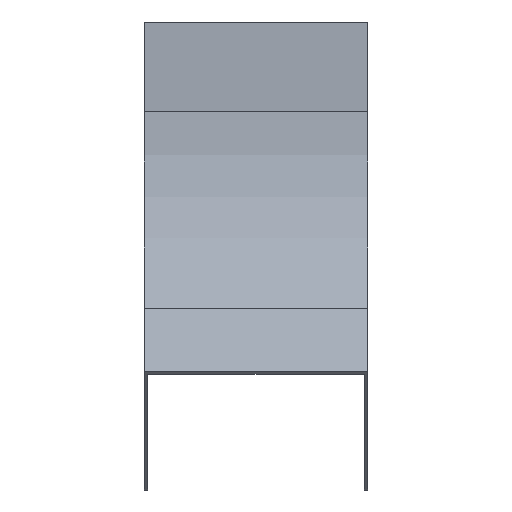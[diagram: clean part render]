
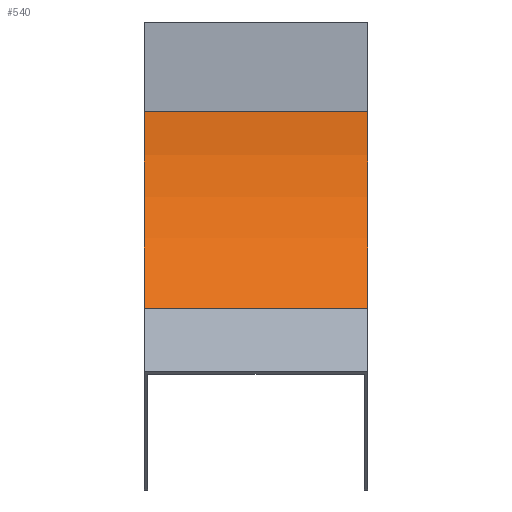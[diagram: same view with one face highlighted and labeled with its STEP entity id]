
A CAD part, front view. The second image highlights one B-rep face of the part: STEP entity #540.
In plain terms, the highlighted cylindrical face has radius 125 mm (diameter 250 mm), a partial arc.
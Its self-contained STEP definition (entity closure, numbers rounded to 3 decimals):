
#5 = CARTESIAN_POINT ( 'NONE',  ( 50., -36.612, -128.388 ) ) ;
#10 = ORIENTED_EDGE ( 'NONE', *, *, #181, .T. ) ;
#22 = DIRECTION ( 'NONE',  ( 0., 0., 1. ) ) ;
#76 = LINE ( 'NONE', #829, #459 ) ;
#125 = LINE ( 'NONE', #5, #891 ) ;
#154 = FACE_OUTER_BOUND ( 'NONE', #1281, .T. ) ;
#157 = AXIS2_PLACEMENT_3D ( 'NONE', #1033, #637, #1537 ) ;
#181 = EDGE_CURVE ( 'NONE', #249, #460, #267, .T. ) ;
#249 = VERTEX_POINT ( 'NONE', #1606 ) ;
#267 = CIRCLE ( 'NONE', #831, 125. ) ;
#346 = AXIS2_PLACEMENT_3D ( 'NONE', #1203, #819, #1194 ) ;
#459 = VECTOR ( 'NONE', #1483, 1000. ) ;
#460 = VERTEX_POINT ( 'NONE', #889 ) ;
#483 = EDGE_CURVE ( 'NONE', #1647, #460, #125, .T. ) ;
#517 = CARTESIAN_POINT ( 'NONE',  ( -50., -125., -40. ) ) ;
#540 = ADVANCED_FACE ( 'NONE', ( #154 ), #671, .F. ) ;
#637 = DIRECTION ( 'NONE',  ( -1., 0., 0. ) ) ;
#641 = DIRECTION ( 'NONE',  ( -1., 0., 0. ) ) ;
#671 = CYLINDRICAL_SURFACE ( 'NONE', #346, 125. ) ;
#741 = EDGE_CURVE ( 'NONE', #1577, #1647, #1328, .T. ) ;
#819 = DIRECTION ( 'NONE',  ( -1., 0., 0. ) ) ;
#829 = CARTESIAN_POINT ( 'NONE',  ( 50., 0., -40. ) ) ;
#831 = AXIS2_PLACEMENT_3D ( 'NONE', #517, #1181, #22 ) ;
#869 = ORIENTED_EDGE ( 'NONE', *, *, #483, .F. ) ;
#871 = CARTESIAN_POINT ( 'NONE',  ( 50., 0., -40. ) ) ;
#889 = CARTESIAN_POINT ( 'NONE',  ( -50., -36.612, -128.388 ) ) ;
#891 = VECTOR ( 'NONE', #641, 1000. ) ;
#914 = ORIENTED_EDGE ( 'NONE', *, *, #1035, .T. ) ;
#1033 = CARTESIAN_POINT ( 'NONE',  ( 50., -125., -40. ) ) ;
#1035 = EDGE_CURVE ( 'NONE', #1577, #249, #76, .T. ) ;
#1181 = DIRECTION ( 'NONE',  ( -1., 0., 0. ) ) ;
#1194 = DIRECTION ( 'NONE',  ( 0., 0., 1. ) ) ;
#1203 = CARTESIAN_POINT ( 'NONE',  ( 50., -125., -40. ) ) ;
#1281 = EDGE_LOOP ( 'NONE', ( #10, #869, #1538, #914 ) ) ;
#1328 = CIRCLE ( 'NONE', #157, 125. ) ;
#1483 = DIRECTION ( 'NONE',  ( -1., 0., 0. ) ) ;
#1537 = DIRECTION ( 'NONE',  ( 0., 0., 1. ) ) ;
#1538 = ORIENTED_EDGE ( 'NONE', *, *, #741, .F. ) ;
#1577 = VERTEX_POINT ( 'NONE', #871 ) ;
#1578 = CARTESIAN_POINT ( 'NONE',  ( 50., -36.612, -128.388 ) ) ;
#1606 = CARTESIAN_POINT ( 'NONE',  ( -50., 0., -40. ) ) ;
#1647 = VERTEX_POINT ( 'NONE', #1578 ) ;
